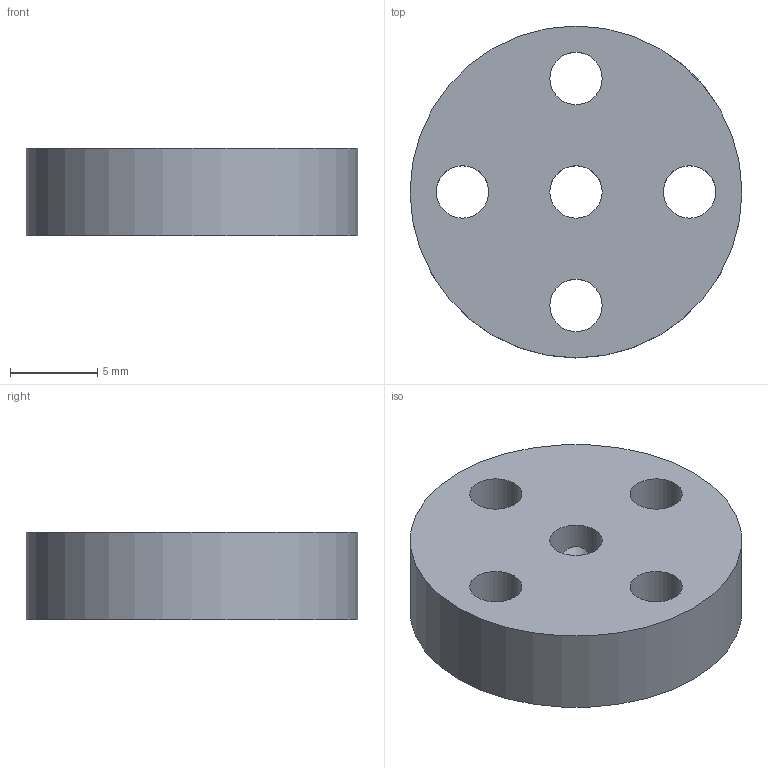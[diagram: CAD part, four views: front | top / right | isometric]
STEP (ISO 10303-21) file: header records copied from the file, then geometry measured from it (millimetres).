
FILE_DESCRIPTION(/* description */ (''),/* implementation_level */ '2;1');
FILE_NAME(/* name */ 'C:/Users/priba/Documents/Temp/mrm-hub3.step',/* time_stamp */ '2020-04-08T13:15:23+02:00',/* author */ (''),/* organization */ (''),/* preprocessor_version */ 'ST-DEVELOPER v18',/* originating_system */ 'Autodesk Translation Framework v8.12.0.6',/* authorisation */ '');
FILE_SCHEMA (('AUTOMOTIVE_DESIGN { 1 0 10303 214 3 1 1 }'));
Length unit declared in the file: millimetre
Products named in the file (1): WheelHub3mm
Bounding box: 19 x 19 x 5 mm (x, y, z)
Volume: 1215.6 mm3; surface area: 1075.2 mm2
Topology: 1 solids, 1 shells, 9 faces, 23 edges, 16 vertices
Faces by surface type: cylinder 7, plane 2
Full cylindrical faces by diameter (mm): 2 x1, 3 x5, 19 x1
Entity records: 402 total; most frequent: CARTESIAN_POINT 117, DIRECTION 51, ORIENTED_EDGE 46, EDGE_CURVE 23, AXIS2_PLACEMENT_3D 22, EDGE_LOOP 21, VERTEX_POINT 16, FACE_BOUND 12
